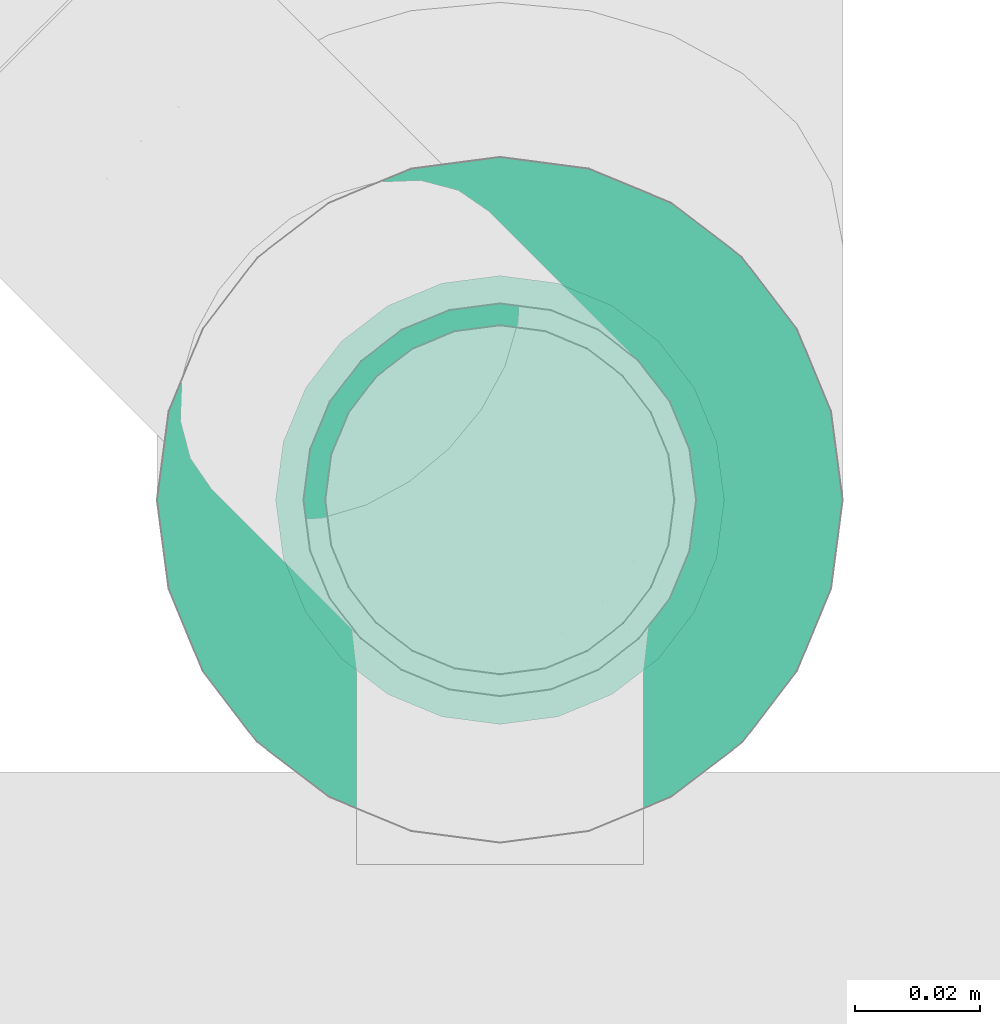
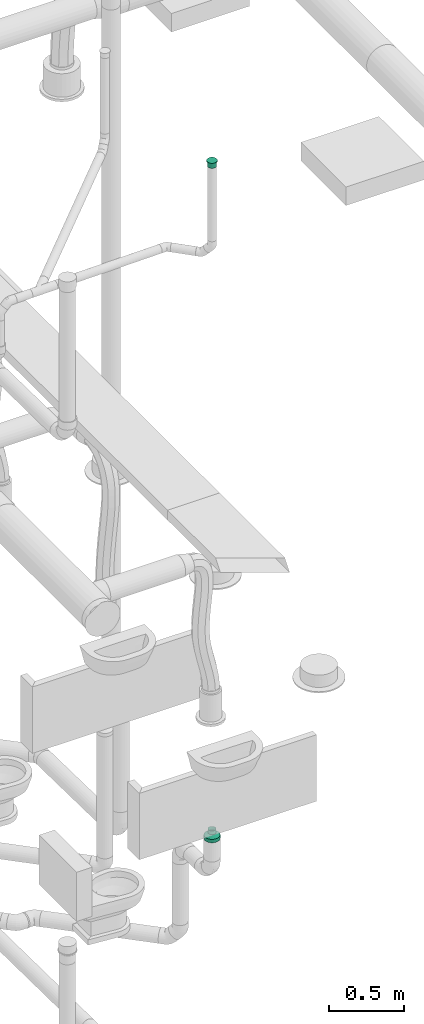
# One storey, part 126 of 374: 2 flow fittings.
"""IFC2X3 building model written with IfcOpenShell, lengths in metres."""

import ifcopenshell
import ifcopenshell.guid

model = None  # the IFC model being written
_history = None  # IfcOwnerHistory: only IFC2X3 demands one
_inside = {}  # id of a spatial element -> (the spatial element, [elements in it])
_under = {}  # id of a project, library or spatial element -> (it, [spatial elements below it])
_declared = {}  # id of a project -> (the project, [libraries it declares])
_typed = {}  # id of a type object -> (the type object, [elements of that type])
_made_of = {}  # id of a material, layer set ... -> (it, [elements and type objects made of it])


def new_model(schema):
    """Start an empty IFC model of exactly this schema.

    Asked for "IFC4X3", IfcOpenShell would pick the latest addendum, in which some entities
    have other attributes; the version numbers below select the first issue.
    IFC2X3 requires an IfcOwnerHistory on every rooted entity: one is made here for all.
    """
    global model, _history
    if schema == "IFC4X3":
        model = ifcopenshell.file(schema_version=(4, 3, 0, 0))
    else:
        model = ifcopenshell.file(schema=schema)
    _inside.clear()
    _under.clear()
    _declared.clear()
    _typed.clear()
    _made_of.clear()
    _history = None
    if model.schema == "IFC2X3":
        org = make("IfcOrganization", Name="unknown")
        user = make(
            "IfcPersonAndOrganization",
            ThePerson=make("IfcPerson", FamilyName="unknown"),
            TheOrganization=org,
        )
        app = make(
            "IfcApplication",
            ApplicationDeveloper=org,
            Version="unknown",
            ApplicationFullName="unknown",
            ApplicationIdentifier="unknown",
        )
        _history = make(
            "IfcOwnerHistory",
            OwningUser=user,
            OwningApplication=app,
            ChangeAction="ADDED",
            CreationDate=0,
        )
    return model


def make(cls, **values):
    """One entity of the class cls with the attributes given. An attribute that is None is left unset."""
    return model.create_entity(
        cls, **{name: value for name, value in values.items() if value is not None}
    )


def rooted(cls, **values):
    """An entity with a GlobalId (a new one), such as an element, a storey or a relation."""
    return make(cls, GlobalId=ifcopenshell.guid.new(), OwnerHistory=_history, **values)


def si_unit(unit_type, name, prefix=None):
    """IfcSIUnit, for example si_unit("LENGTHUNIT", "METRE", prefix="MILLI")."""
    return make("IfcSIUnit", UnitType=unit_type, Prefix=prefix, Name=name)


def assignment(units):
    """IfcUnitAssignment: the units of a project."""
    return None if units is None else make("IfcUnitAssignment", Units=units)


def point(xyz):
    """IfcCartesianPoint."""
    return None if xyz is None else make("IfcCartesianPoint", Coordinates=xyz)


def direction(xyz):
    """IfcDirection."""
    return None if xyz is None else make("IfcDirection", DirectionRatios=xyz)


def frame(location, z_axis=None, x_axis=None):
    """IfcAxis2Placement3D, a coordinate frame: its origin and axes. An axis left out is left unset."""
    return make(
        "IfcAxis2Placement3D",
        Location=point(location),
        Axis=direction(z_axis),
        RefDirection=direction(x_axis),
    )


def origin():
    """The frame at (0, 0, 0) with its axes left unset."""
    return frame((0.0, 0.0, 0.0))


def place(relative_to, where):
    """IfcLocalPlacement: puts the frame where relative to a parent placement (None: the world)."""
    return make(
        "IfcLocalPlacement", PlacementRelTo=relative_to, RelativePlacement=where
    )


def context(
    kind, dimensions, precision=None, world=None, true_north=None, identifier=None
):
    """IfcGeometricRepresentationContext, for example the 3D "Model" context."""
    return make(
        "IfcGeometricRepresentationContext",
        ContextIdentifier=identifier,
        ContextType=kind,
        CoordinateSpaceDimension=dimensions,
        Precision=precision,
        WorldCoordinateSystem=world,
        TrueNorth=true_north,
    )


def subcontext(parent, identifier, kind, view, scale=None):
    """IfcGeometricRepresentationSubContext, for example "Body" below "Model"."""
    return make(
        "IfcGeometricRepresentationSubContext",
        ContextIdentifier=identifier,
        ContextType=kind,
        ParentContext=parent,
        TargetScale=scale,
        TargetView=view,
    )


def project(units=None, contexts=None):
    """IfcProject with its units and contexts."""
    return rooted(
        "IfcProject",
        Name="project",
        RepresentationContexts=contexts,
        UnitsInContext=assignment(units),
    )


def spatial(cls, under=None, at=None, **own):
    """A site, building, storey or space (cls), placed at a placement, below another one or the project."""
    s = rooted(cls, ObjectPlacement=at, **own)
    if under is not None:
        _under.setdefault(under.id(), (under, []))[1].append(s)
    return s


def faces_of(points, faces, orient=None, outer=None):
    """IfcFace entities. A face is a list of loops; a loop is a list of indices into points, from 0.

    orient and outer hold one flag for each loop. By default every Orientation is true, the
    first loop of a face is its IfcFaceOuterBound and the others are IfcFaceBound.
    """
    made = []
    for i, loops in enumerate(faces):
        bounds = []
        for j, loop in enumerate(loops):
            is_outer = j == 0 if outer is None else outer[i][j]
            bounds.append(
                make(
                    "IfcFaceOuterBound" if is_outer else "IfcFaceBound",
                    Bound=make("IfcPolyLoop", Polygon=[points[k] for k in loop]),
                    Orientation=True if orient is None else orient[i][j],
                )
            )
        made.append(make("IfcFace", Bounds=bounds))
    return made


def open_shell(faces, orient=None, outer=None):
    """The faces of one IfcOpenShell. surface_model builds it on its shared points."""
    return ("IfcOpenShell", faces, orient, outer)


def surface_model(cls, points, shells):
    """IfcFaceBasedSurfaceModel or IfcShellBasedSurfaceModel (cls): surfaces that need not close."""
    shared = [point(p) for p in points]
    made = [make(c, CfsFaces=faces_of(shared, fs, o, b)) for c, fs, o, b in shells]
    if cls == "IfcFaceBasedSurfaceModel":
        return make(cls, FbsmFaces=made)
    return make(cls, SbsmBoundary=made)


def shape(context_of_items, identifier, shape_type, items):
    """IfcShapeRepresentation: the items that make up one representation, for example the "Body"."""
    return make(
        "IfcShapeRepresentation",
        ContextOfItems=context_of_items,
        RepresentationIdentifier=identifier,
        RepresentationType=shape_type,
        Items=items,
    )


def source(mapping_origin, context_of_items, identifier, shape_type, items):
    """IfcRepresentationMap: a shape defined once, which mapped items show again and again."""
    return make(
        "IfcRepresentationMap",
        MappingOrigin=mapping_origin,
        MappedRepresentation=shape(context_of_items, identifier, shape_type, items),
    )


def transform(
    local_origin,
    x_axis=None,
    y_axis=None,
    z_axis=None,
    scale=None,
    scale2=None,
    scale3=None,
    uniform=True,
):
    """IfcCartesianTransformationOperator3D, or its non-uniform kind. x_axis, y_axis, z_axis: its Axis1, 2, 3."""
    if uniform:
        return make(
            "IfcCartesianTransformationOperator3D",
            Axis1=direction(x_axis),
            Axis2=direction(y_axis),
            LocalOrigin=point(local_origin),
            Scale=scale,
            Axis3=direction(z_axis),
        )
    return make(
        "IfcCartesianTransformationOperator3DnonUniform",
        Axis1=direction(x_axis),
        Axis2=direction(y_axis),
        LocalOrigin=point(local_origin),
        Scale=scale,
        Axis3=direction(z_axis),
        Scale2=scale2,
        Scale3=scale3,
    )


def mapped(mapping_source, mapping_target):
    """IfcMappedItem: shows the shape of a source again, moved by a transform."""
    return make(
        "IfcMappedItem", MappingSource=mapping_source, MappingTarget=mapping_target
    )


def made_of(thing, what):
    """Note that an element or type object is made of a material, layer set ...; save() writes the relation."""
    if what is not None:
        _made_of.setdefault(what.id(), (what, []))[1].append(thing)
    return thing


def element(
    cls,
    number,
    at=None,
    inside=None,
    cuts=None,
    type_object=None,
    material=None,
    context=None,
    identifier="Body",
    shape_type=None,
    held_by="IfcProductDefinitionShape",
    body=None,
    shapes=None,
    **own,
):
    """One element of the class cls, such as IfcWall. Its Tag is "e" and its number.

    at: its placement. inside: the storey or other place that contains it. cuts: it is an
    opening in that element (IfcRelVoidsElement). A single representation is given by context,
    identifier, shape_type and body (its items); several are given by shapes. held_by: the class
    of the entity that holds the representations. save() writes the other relations.
    """
    e = rooted(cls, Tag="e%d" % number, ObjectPlacement=at, **own)
    if body is not None:
        shapes = [shape(context, identifier, shape_type, body)]
    if shapes is not None:
        e.Representation = make(held_by, Representations=shapes)
    if inside is not None:
        _inside.setdefault(inside.id(), (inside, []))[1].append(e)
    if cuts is not None:
        rooted(
            "IfcRelVoidsElement", RelatingBuildingElement=cuts, RelatedOpeningElement=e
        )
    if type_object is not None:
        _typed.setdefault(type_object.id(), (type_object, []))[1].append(e)
    return made_of(e, material)


def aggregate(whole, parts):
    """IfcRelAggregates: a whole, such as a stair, and the parts it consists of."""
    return rooted("IfcRelAggregates", RelatingObject=whole, RelatedObjects=parts)


def save(model, path):
    """Write the relations noted so far, then the file.

    IfcRelAggregates (storeys below a building ...), IfcRelContainedInSpatialStructure (elements
    in a storey), IfcRelDefinesByType, IfcRelAssociatesMaterial and IfcRelDeclares: one each for
    every whole, place, type object, material and project.
    """
    for whole, parts in _under.values():
        aggregate(whole, parts)
    for where, things in _inside.values():
        rooted(
            "IfcRelContainedInSpatialStructure",
            RelatedElements=things,
            RelatingStructure=where,
        )
    for kind, things in _typed.values():
        rooted("IfcRelDefinesByType", RelatedObjects=things, RelatingType=kind)
    for what, things in _made_of.values():
        rooted("IfcRelAssociatesMaterial", RelatedObjects=things, RelatingMaterial=what)
    for by, libraries in _declared.values():
        rooted("IfcRelDeclares", RelatingContext=by, RelatedDefinitions=libraries)
    model.write(path)


model = new_model("IFC2X3")

# Units and contexts
model_context = context("Model", 3, precision=1e-05, world=origin(), true_north=direction((-0.4480736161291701, 0.8939966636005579)))
body_context = subcontext(model_context, "Body", "Model", "MODEL_VIEW")
ifc_project = project(units=[si_unit("LENGTHUNIT", "METRE"), si_unit("AREAUNIT", "SQUARE_METRE"), si_unit("VOLUMEUNIT", "CUBIC_METRE"), si_unit("PLANEANGLEUNIT", "RADIAN"), si_unit("THERMODYNAMICTEMPERATUREUNIT", "KELVIN"), si_unit("MASSUNIT", "GRAM", prefix="KILO"), si_unit("TIMEUNIT", "SECOND")], contexts=[model_context])

# Site, building, storey
site_placement = place(None, origin())
site = spatial("IfcSite", under=ifc_project, at=site_placement, Name="Site 1", CompositionType="ELEMENT")
building_placement = place(site_placement, origin())
building = spatial("IfcBuilding", under=site, at=building_placement, Name="Undefined", CompositionType="ELEMENT")
storey_placement = place(building_placement, origin())
storey = spatial("IfcBuildingStorey", under=building, at=storey_placement, Name="Rez de chauss\x8ee", CompositionType="ELEMENT", Elevation=0.0)

# Flow fittings
shared_shape_1 = source(origin(), body_context, "Body", "SurfaceModel", [
    surface_model("IfcFaceBasedSurfaceModel", [(0.0, 0.008223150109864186, -7.105427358e-15), (0.0, 0.0, 0.0), (0.04400000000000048, 0.0, 0.0), (0.04400000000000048, 0.008223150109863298, 0.0), (0.0, -0.007942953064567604, -0.002128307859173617), (0.04400000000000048, -0.007942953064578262, -0.0021283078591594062), (-7.105427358e-15, -0.015064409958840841, -0.006239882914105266), (0.04400000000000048, -0.01506440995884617, -0.006239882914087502), (0.0, -0.020879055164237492, -0.012054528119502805), (0.04400000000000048, -0.020879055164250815, -0.012054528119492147), (0.0, -0.024990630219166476, -0.01917598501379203), (0.04400000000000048, -0.02499063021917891, -0.01917598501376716), (-7.105427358e-15, -0.027118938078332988, -0.027118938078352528), (0.04400000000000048, -0.027118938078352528, -0.02711893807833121), (-1.4210854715e-14, -0.02711893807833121, -0.035342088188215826), (0.04400000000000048, -0.027118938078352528, -0.035342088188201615), (-7.105427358e-15, -0.024990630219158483, -0.04328504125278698), (0.04400000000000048, -0.024990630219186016, -0.043285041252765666), (-7.105427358e-15, -0.02087905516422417, -0.050406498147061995), (0.04400000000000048, -0.02087905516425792, -0.05040649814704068), (-7.105427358e-15, -0.015064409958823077, -0.05622114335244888), (0.04400000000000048, -0.01506440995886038, -0.056221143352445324), (-1.4210854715e-14, -0.007942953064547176, -0.06033271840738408), (0.04400000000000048, -0.007942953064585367, -0.06033271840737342), (0.0, 2.2204460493e-14, -0.06246102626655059), (0.04400000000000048, -2.1316282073e-14, -0.06246102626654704), (0.0, 0.00822315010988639, -0.06246102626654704), (0.04400000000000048, 0.008223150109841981, -0.06246102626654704), (-7.105427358e-15, 0.016166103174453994, -0.06033271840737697), (0.04400000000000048, 0.016166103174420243, -0.060332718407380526), (-7.105427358e-15, 0.02328756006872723, -0.056221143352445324), (0.04400000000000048, 0.02328756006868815, -0.056221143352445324), (0.0, 0.029102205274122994, -0.05040649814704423), (0.04400000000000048, 0.029102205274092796, -0.05040649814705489), (-7.105427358e-15, 0.03321378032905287, -0.043285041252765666), (0.04400000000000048, 0.03321378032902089, -0.04328504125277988), (-7.105427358e-15, 0.03534208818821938, -0.03534208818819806), (0.04400000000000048, 0.03534208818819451, -0.03534208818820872), (-7.105427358e-15, 0.0353420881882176, -0.027118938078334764), (0.04400000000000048, 0.035342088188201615, -0.027118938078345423), (-7.105427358e-15, 0.03321378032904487, -0.019175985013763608), (0.04400000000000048, 0.033213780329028, -0.01917598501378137), (-7.105427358e-15, 0.02910220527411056, -0.012054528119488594), (0.04400000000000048, 0.0291022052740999, -0.012054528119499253), (-7.105427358e-15, 0.023287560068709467, -0.00623988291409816), (0.04400000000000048, 0.023287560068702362, -0.006239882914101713), (-7.105427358e-15, 0.016166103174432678, -0.0021283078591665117), (0.04400000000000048, 0.016166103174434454, -0.002128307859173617), (0.044002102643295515, -0.025383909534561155, -0.035113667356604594), (0.044002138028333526, -0.025383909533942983, -0.02734735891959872), (0.044004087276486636, -0.023648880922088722, -0.03488524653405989), (0.044004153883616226, -0.02364888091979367, -0.027575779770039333), (0.044001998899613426, -0.023373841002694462, -0.04261534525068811), (0.04400389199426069, -0.02175705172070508, -0.041945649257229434), (0.044001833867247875, -0.019490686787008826, -0.04934116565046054), (0.04400358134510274, -0.018102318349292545, -0.04827583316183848), (0.04400161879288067, -0.013999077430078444, -0.054832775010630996), (0.044003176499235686, -0.01293374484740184, -0.05344440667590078), (0.04400136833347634, -0.007273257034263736, -0.058715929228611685), (0.04400270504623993, -0.006603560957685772, -0.05709914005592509), (0.0440010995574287, 0.00022842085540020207, -0.06072599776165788), (0.04400219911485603, 0.00045684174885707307, -0.05899096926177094), (0.04400083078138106, 0.007994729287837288, -0.06072599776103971), (0.044001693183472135, 0.007766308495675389, -0.05899096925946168), (0.044000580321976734, 0.015496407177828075, -0.05871592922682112), (0.04400122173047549, 0.014826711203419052, -0.057099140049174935), (0.04400036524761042, 0.02222222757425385, -0.05483277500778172), (0.04400081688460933, 0.021156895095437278, -0.05344440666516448), (0.04400020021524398, 0.027713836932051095, -0.04934116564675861), (0.044000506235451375, 0.026325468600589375, -0.048275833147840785), (0.04400009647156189, 0.031596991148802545, -0.0426153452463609), (0.04400031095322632, 0.029980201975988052, -0.04194564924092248), (0.04400006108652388, 0.033607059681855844, -0.035113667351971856), (0.04400024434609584, 0.031872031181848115, -0.034885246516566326), (0.04400009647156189, 0.03360705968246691, -0.02734735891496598), (0.04400031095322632, 0.031872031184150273, -0.027575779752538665), (0.04400020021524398, 0.03159699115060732, -0.019845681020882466), (0.044000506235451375, 0.02998020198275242, -0.02051537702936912), (0.04400036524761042, 0.027713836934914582, -0.013119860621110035), (0.04400081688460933, 0.02632546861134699, -0.014185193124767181), (0.044000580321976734, 0.0222222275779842, -0.0076282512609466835), (0.04400122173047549, 0.02115689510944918, -0.009016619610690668), (0.04400083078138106, 0.015496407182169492, -0.0037450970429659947), (0.044001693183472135, 0.014826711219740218, -0.005361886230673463), (0.0440010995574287, 0.007994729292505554, -0.001735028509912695), (0.04400219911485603, 0.007766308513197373, -0.0034700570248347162), (0.04400136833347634, 0.00022842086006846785, -0.0017350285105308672), (0.04400270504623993, 0.00045684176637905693, -0.0034700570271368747), (0.04400161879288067, -0.00727325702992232, -0.003745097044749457), (0.044003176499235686, -0.006603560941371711, -0.005361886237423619), (0.044001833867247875, -0.013999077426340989, -0.00762825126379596), (0.04400358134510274, -0.012933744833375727, -0.009016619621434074), (0.044001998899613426, -0.019490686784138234, -0.013119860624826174), (0.04400389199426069, -0.01810231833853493, -0.014185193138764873), (0.044002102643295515, -0.023373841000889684, -0.019845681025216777), (0.044004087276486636, -0.021757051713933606, -0.02051537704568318), (0.03700471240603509, -0.03158092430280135, -0.026531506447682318), (0.03700462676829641, -0.03158092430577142, -0.03592939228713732), (0.04400462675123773, -0.031580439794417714, -0.03592945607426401), (0.04400471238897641, -0.031580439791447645, -0.026531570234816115), (0.03700437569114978, -0.029148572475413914, -0.04500705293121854), (0.0440043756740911, -0.029148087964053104, -0.04500711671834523), (0.03700397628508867, -0.024449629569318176, -0.05314586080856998), (0.04400397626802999, -0.024449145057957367, -0.05314592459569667), (0.0370034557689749, -0.017804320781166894, -0.059791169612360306), (0.04400345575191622, -0.017803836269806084, -0.059791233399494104), (0.03700284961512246, -0.00966551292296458, -0.0644901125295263), (0.044002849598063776, -0.009665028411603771, -0.06449017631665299), (0.037002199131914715, -0.0005878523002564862, -0.06692246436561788), (0.04400219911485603, -0.0005873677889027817, -0.06692252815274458), (0.03700154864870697, 0.008810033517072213, -0.06692246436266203), (0.0440015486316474, 0.008810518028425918, -0.06692252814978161), (0.03700094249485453, 0.017887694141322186, -0.06449011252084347), (0.04400094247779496, 0.01788817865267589, -0.06449017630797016), (0.03700042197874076, 0.02602650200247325, -0.05979116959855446), (0.04400042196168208, 0.02602698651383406, -0.05979123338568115), (0.03700002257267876, 0.03267181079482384, -0.053145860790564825), (0.04400002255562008, 0.03267229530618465, -0.05314592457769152), (0.03699977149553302, 0.0373707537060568, -0.04500705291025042), (0.04399977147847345, 0.03737123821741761, -0.04500711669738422), (0.03699968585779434, 0.03980310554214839, -0.035929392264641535), (0.04399968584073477, 0.03980359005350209, -0.03592945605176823), (0.03699977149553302, 0.039803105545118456, -0.02653150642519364), (0.04399977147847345, 0.039803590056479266, -0.026531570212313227), (0.03700002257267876, 0.037370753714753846, -0.017453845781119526), (0.04400002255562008, 0.037371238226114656, -0.017453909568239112), (0.03700042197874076, 0.03267181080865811, -0.009315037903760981), (0.04400042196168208, 0.03267229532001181, -0.009315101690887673), (0.03700094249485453, 0.026026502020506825, -0.0026697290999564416), (0.04400094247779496, 0.02602698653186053, -0.0026697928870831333), (0.03700154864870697, 0.017887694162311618, 0.0020292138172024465), (0.0440015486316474, 0.017888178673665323, 0.00202915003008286), (0.037002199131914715, 0.008810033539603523, 0.004461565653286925), (0.04400219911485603, 0.008810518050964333, 0.0044615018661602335), (0.03700284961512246, -0.000587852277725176, 0.0044615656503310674), (0.044002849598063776, -0.0005873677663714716, 0.004461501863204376), (0.0370034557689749, -0.009665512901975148, 0.0020292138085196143), (0.04400345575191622, -0.009665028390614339, 0.002029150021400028), (0.03700397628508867, -0.01780432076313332, -0.002669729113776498), (0.04400397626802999, -0.01780383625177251, -0.0026697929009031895), (0.03700437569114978, -0.02444962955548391, -0.009315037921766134), (0.0440043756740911, -0.024449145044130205, -0.00931510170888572), (0.03700462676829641, -0.029148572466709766, -0.017453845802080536), (0.04400462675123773, -0.02914808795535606, -0.017453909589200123), (0.037002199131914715, 0.004111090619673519, -0.031230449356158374), (0.04400219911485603, 0.004111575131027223, -0.03123051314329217)], [open_shell([[[0, 1, 2, 3]], [[1, 4, 5, 2]], [[4, 6, 7, 5]], [[6, 8, 9, 7]], [[8, 10, 11, 9]], [[10, 12, 13, 11]], [[12, 14, 15, 13]], [[14, 16, 17, 15]], [[16, 18, 19, 17]], [[18, 20, 21, 19]], [[20, 22, 23, 21]], [[22, 24, 25, 23]], [[24, 26, 27, 25]], [[26, 28, 29, 27]], [[28, 30, 31, 29]], [[30, 32, 33, 31]], [[32, 34, 35, 33]], [[34, 36, 37, 35]], [[36, 38, 39, 37]], [[38, 40, 41, 39]], [[40, 42, 43, 41]], [[42, 44, 45, 43]], [[44, 46, 47, 45]], [[46, 0, 3, 47]], [[13, 15, 48]], [[48, 49, 13]], [[49, 48, 50]], [[50, 51, 49]], [[15, 17, 52]], [[52, 48, 15]], [[48, 52, 53]], [[53, 50, 48]], [[17, 19, 54]], [[54, 52, 17]], [[52, 54, 55]], [[55, 53, 52]], [[19, 21, 56]], [[56, 54, 19]], [[54, 56, 57]], [[57, 55, 54]], [[21, 23, 58]], [[58, 56, 21]], [[56, 58, 59]], [[59, 57, 56]], [[23, 25, 60]], [[60, 58, 23]], [[58, 60, 61]], [[61, 59, 58]], [[25, 27, 62]], [[62, 60, 25]], [[60, 62, 63]], [[63, 61, 60]], [[27, 29, 64]], [[64, 62, 27]], [[62, 64, 65]], [[65, 63, 62]], [[29, 31, 66]], [[66, 64, 29]], [[64, 66, 67]], [[67, 65, 64]], [[31, 33, 68]], [[68, 66, 31]], [[66, 68, 69]], [[69, 67, 66]], [[33, 35, 70]], [[70, 68, 33]], [[68, 70, 71]], [[71, 69, 68]], [[35, 37, 72]], [[72, 70, 35]], [[70, 72, 73]], [[73, 71, 70]], [[37, 39, 74]], [[74, 72, 37]], [[72, 74, 75]], [[75, 73, 72]], [[39, 41, 76]], [[76, 74, 39]], [[74, 76, 77]], [[77, 75, 74]], [[41, 43, 78]], [[78, 76, 41]], [[76, 78, 79]], [[79, 77, 76]], [[43, 45, 80]], [[80, 78, 43]], [[78, 80, 81]], [[81, 79, 78]], [[45, 47, 82]], [[82, 80, 45]], [[80, 82, 83]], [[83, 81, 80]], [[47, 3, 84]], [[84, 82, 47]], [[82, 84, 85]], [[85, 83, 82]], [[3, 2, 86]], [[86, 84, 3]], [[84, 86, 87]], [[87, 85, 84]], [[2, 5, 88]], [[88, 86, 2]], [[86, 88, 89]], [[89, 87, 86]], [[5, 7, 90]], [[90, 88, 5]], [[88, 90, 91]], [[91, 89, 88]], [[7, 9, 92]], [[92, 90, 7]], [[90, 92, 93]], [[93, 91, 90]], [[9, 11, 94]], [[94, 92, 9]], [[92, 94, 95]], [[95, 93, 92]], [[11, 13, 49]], [[49, 94, 11]], [[94, 49, 51]], [[51, 95, 94]], [[96, 97, 98, 99]], [[97, 100, 101, 98]], [[100, 102, 103, 101]], [[102, 104, 105, 103]], [[104, 106, 107, 105]], [[106, 108, 109, 107]], [[108, 110, 111, 109]], [[110, 112, 113, 111]], [[112, 114, 115, 113]], [[114, 116, 117, 115]], [[116, 118, 119, 117]], [[118, 120, 121, 119]], [[120, 122, 123, 121]], [[122, 124, 125, 123]], [[124, 126, 127, 125]], [[126, 128, 129, 127]], [[128, 130, 131, 129]], [[130, 132, 133, 131]], [[132, 134, 135, 133]], [[134, 136, 137, 135]], [[136, 138, 139, 137]], [[138, 140, 141, 139]], [[140, 142, 143, 141]], [[142, 96, 99, 143]], [[144, 97, 96]], [[144, 100, 97]], [[144, 102, 100]], [[144, 104, 102]], [[144, 106, 104]], [[144, 108, 106]], [[144, 110, 108]], [[144, 112, 110]], [[144, 114, 112]], [[144, 116, 114]], [[144, 118, 116]], [[144, 120, 118]], [[144, 122, 120]], [[144, 124, 122]], [[144, 126, 124]], [[144, 128, 126]], [[144, 130, 128]], [[144, 132, 130]], [[144, 134, 132]], [[144, 136, 134]], [[144, 138, 136]], [[144, 140, 138]], [[144, 142, 140]], [[144, 96, 142]], [[145, 143, 99]], [[145, 141, 143]], [[145, 139, 141]], [[145, 137, 139]], [[145, 135, 137]], [[145, 133, 135]], [[145, 131, 133]], [[145, 129, 131]], [[145, 127, 129]], [[145, 125, 127]], [[145, 123, 125]], [[145, 121, 123]], [[145, 119, 121]], [[145, 117, 119]], [[145, 115, 117]], [[145, 113, 115]], [[145, 111, 113]], [[145, 109, 111]], [[145, 107, 109]], [[145, 105, 107]], [[145, 103, 105]], [[145, 101, 103]], [[145, 98, 101]], [[145, 99, 98]]])]),
])
flow_fitting_1_placement = place(storey_placement, origin())
element("IfcFlowFitting", 1, at=flow_fitting_1_placement, inside=storey, Name="PE-HD manchon à emboiter réduit", ObjectType="PE-HD manchon à emboiter réduit", context=body_context, shape_type="MappedRepresentation", body=[
    mapped(shared_shape_1, transform((58.55925718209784, 11.959432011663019, 5.369557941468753), x_axis=(0.0, 0.0, 1.0), y_axis=(-0.7933533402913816, 0.6087614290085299, 0.0), z_axis=(-0.6087614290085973, -0.79335334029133, 0.0))),
])
shared_shape_2 = source(origin(), body_context, "Body", "SurfaceModel", [
    surface_model("IfcFaceBasedSurfaceModel", [(0.0, 0.014357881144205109, -3.552713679e-15), (0.0, 0.0, 0.0), (0.02785, 0.0, 0.0), (0.02785, 0.014357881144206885, 0.0), (0.0, -0.01386864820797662, -0.0037160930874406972), (0.02785, -0.013868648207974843, -0.0037160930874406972), (0.0, -0.026302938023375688, -0.010895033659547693), (0.02785, -0.02630293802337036, -0.010895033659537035), (0.0, -0.03645549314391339, -0.021047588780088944), (0.02785, -0.03645549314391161, -0.02104758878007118), (0.0, -0.04363443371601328, -0.033481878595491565), (0.02785, -0.04363443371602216, -0.033481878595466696), (0.0, -0.04735052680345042, -0.04735052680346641), (0.02785, -0.047350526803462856, -0.047350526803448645), (0.0, -0.04735052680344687, -0.06170840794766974), (0.02785, -0.047350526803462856, -0.061708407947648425), (0.0, -0.04363443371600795, -0.07557705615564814), (0.02785, -0.043634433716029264, -0.07557705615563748), (0.0, -0.03645549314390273, -0.08801134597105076), (0.02785, -0.03645549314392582, -0.0880113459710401), (0.0, -0.026302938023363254, -0.0981639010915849), (0.02785, -0.026302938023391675, -0.09816390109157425), (0.0, -0.013868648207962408, -0.1053428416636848), (0.02785, -0.013868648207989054, -0.10534284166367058), (0.0, 1.5987211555e-14, -0.10905893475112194), (0.02785, -1.4210854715e-14, -0.10905893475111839), (0.0, 0.014357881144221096, -0.10905893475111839), (0.02785, 0.014357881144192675, -0.10905893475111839), (0.0, 0.028226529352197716, -0.10534284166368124), (0.02785, 0.028226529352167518, -0.1053428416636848), (0.0, 0.040660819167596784, -0.0981639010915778), (0.02785, 0.040660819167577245, -0.09816390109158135), (0.0, 0.05081337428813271, -0.08801134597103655), (0.02785, 0.05081337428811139, -0.08801134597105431), (0.0, 0.05799231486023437, -0.07557705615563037), (0.02785, 0.05799231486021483, -0.07557705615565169), (0.0, 0.06170840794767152, -0.06170840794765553), (0.02785, 0.06170840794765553, -0.06170840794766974), (0.0, 0.061708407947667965, -0.0473505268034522), (0.02785, 0.061708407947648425, -0.04735052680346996), (0.0, 0.05799231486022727, -0.033481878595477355), (0.02785, 0.05799231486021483, -0.03348187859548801), (0.0, 0.050813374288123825, -0.021047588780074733), (0.02785, 0.0508133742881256, -0.021047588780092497), (0.0, 0.04066081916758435, -0.010895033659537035), (0.02785, 0.040660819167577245, -0.010895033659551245), (0.0, 0.028226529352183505, -0.0037160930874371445), (0.02785, 0.028226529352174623, -0.0037160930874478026), (0.047850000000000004, -0.020581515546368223, -0.05818420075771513), (0.047850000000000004, -0.02058151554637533, -0.05087473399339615), (0.047850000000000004, -0.018689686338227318, -0.06524460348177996), (0.047850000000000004, -0.015034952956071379, -0.07157478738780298), (0.047850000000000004, -0.00986637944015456, -0.0767433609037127), (0.047850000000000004, -0.0035361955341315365, -0.08039809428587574), (0.047850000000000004, 0.0035242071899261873, -0.08228992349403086), (0.047850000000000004, 0.010833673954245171, -0.08228992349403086), (0.047850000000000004, 0.01789407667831, -0.08039809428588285), (0.047850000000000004, 0.02422426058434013, -0.0767433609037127), (0.047850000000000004, 0.029392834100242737, -0.07157478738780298), (0.047850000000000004, 0.03304756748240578, -0.06524460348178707), (0.047850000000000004, 0.0349393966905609, -0.05818420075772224), (0.047850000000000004, 0.03493939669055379, -0.050874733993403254), (0.047850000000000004, 0.03304756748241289, -0.043814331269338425), (0.047850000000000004, 0.029392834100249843, -0.0374841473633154), (0.047850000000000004, 0.02422426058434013, -0.03231557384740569), (0.047850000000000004, 0.017894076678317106, -0.028660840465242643), (0.047850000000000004, 0.010833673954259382, -0.026769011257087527), (0.047850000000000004, 0.003524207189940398, -0.026769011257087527), (0.047850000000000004, -0.003536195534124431, -0.028660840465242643), (0.047850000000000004, -0.00986637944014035, -0.03231557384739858), (0.047850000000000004, -0.015034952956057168, -0.0374841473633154), (0.047850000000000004, -0.018689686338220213, -0.04381433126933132), (0.07635, 0.003524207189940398, -0.026769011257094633), (0.07635, 0.010833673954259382, -0.026769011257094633), (0.07635, -0.003536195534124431, -0.02866084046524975), (0.07635, -0.00986637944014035, -0.03231557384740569), (0.07635, -0.015034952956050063, -0.0374841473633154), (0.07635, -0.018689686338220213, -0.043814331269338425), (0.07635, -0.02058151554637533, -0.050874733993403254), (0.07635, -0.020581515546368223, -0.05818420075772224), (0.07635, -0.018689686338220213, -0.06524460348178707), (0.07635, -0.015034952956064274, -0.07157478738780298), (0.07635, -0.00986637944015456, -0.0767433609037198), (0.07635, -0.003536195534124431, -0.08039809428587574), (0.07635, 0.0035242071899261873, -0.08228992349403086), (0.07635, 0.010833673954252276, -0.08228992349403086), (0.07635, 0.017894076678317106, -0.08039809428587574), (0.07635, 0.02422426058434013, -0.0767433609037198), (0.07635, 0.029392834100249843, -0.07157478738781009), (0.07635, 0.03304756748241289, -0.06524460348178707), (0.07635, 0.0349393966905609, -0.05818420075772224), (0.07635, 0.0349393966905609, -0.050874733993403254), (0.07635, 0.03304756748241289, -0.04381433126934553), (0.07635, 0.029392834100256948, -0.0374841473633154), (0.07635, 0.024224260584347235, -0.03231557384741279), (0.07635, 0.017894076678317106, -0.02866084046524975)], [open_shell([[[0, 1, 2, 3]], [[1, 4, 5, 2]], [[4, 6, 7, 5]], [[6, 8, 9, 7]], [[8, 10, 11, 9]], [[10, 12, 13, 11]], [[12, 14, 15, 13]], [[14, 16, 17, 15]], [[16, 18, 19, 17]], [[18, 20, 21, 19]], [[20, 22, 23, 21]], [[22, 24, 25, 23]], [[24, 26, 27, 25]], [[26, 28, 29, 27]], [[28, 30, 31, 29]], [[30, 32, 33, 31]], [[32, 34, 35, 33]], [[34, 36, 37, 35]], [[36, 38, 39, 37]], [[38, 40, 41, 39]], [[40, 42, 43, 41]], [[42, 44, 45, 43]], [[44, 46, 47, 45]], [[46, 0, 3, 47]], [[13, 15, 48, 49]], [[15, 17, 50, 48]], [[17, 19, 51, 50]], [[19, 21, 52, 51]], [[21, 23, 53, 52]], [[23, 25, 54, 53]], [[25, 27, 55, 54]], [[27, 29, 56, 55]], [[29, 31, 57, 56]], [[31, 33, 58, 57]], [[33, 35, 59, 58]], [[35, 37, 60, 59]], [[37, 39, 61, 60]], [[39, 41, 62, 61]], [[41, 43, 63, 62]], [[43, 45, 64, 63]], [[45, 47, 65, 64]], [[47, 3, 66, 65]], [[3, 2, 67, 66]], [[2, 5, 68, 67]], [[5, 7, 69, 68]], [[7, 9, 70, 69]], [[9, 11, 71, 70]], [[11, 13, 49, 71]], [[66, 67, 72, 73]], [[67, 68, 74, 72]], [[68, 69, 75, 74]], [[69, 70, 76, 75]], [[70, 71, 77, 76]], [[71, 49, 78, 77]], [[49, 48, 79, 78]], [[48, 50, 80, 79]], [[50, 51, 81, 80]], [[51, 52, 82, 81]], [[52, 53, 83, 82]], [[53, 54, 84, 83]], [[54, 55, 85, 84]], [[55, 56, 86, 85]], [[56, 57, 87, 86]], [[57, 58, 88, 87]], [[58, 59, 89, 88]], [[59, 60, 90, 89]], [[60, 61, 91, 90]], [[61, 62, 92, 91]], [[62, 63, 93, 92]], [[63, 64, 94, 93]], [[64, 65, 95, 94]], [[65, 66, 73, 95]]])]),
])
flow_fitting_2_placement = place(storey_placement, origin())
element("IfcFlowFitting", 2, at=flow_fitting_2_placement, inside=storey, Name="PE-HD réduction concentrique", ObjectType="PE-HD réduction concentrique", context=body_context, shape_type="MappedRepresentation", body=[
    mapped(shared_shape_2, transform((58.521881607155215, 11.972476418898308, -0.0944955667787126), x_axis=(0.0, 0.0, 1.0), y_axis=(-0.13052619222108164, 0.9914448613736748, 0.0), z_axis=(-0.9914448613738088, -0.13052619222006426, 0.0))),
])

save(model, "model.ifc")
